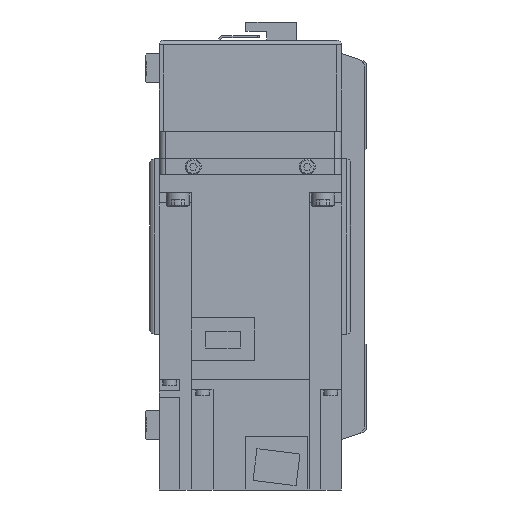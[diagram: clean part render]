
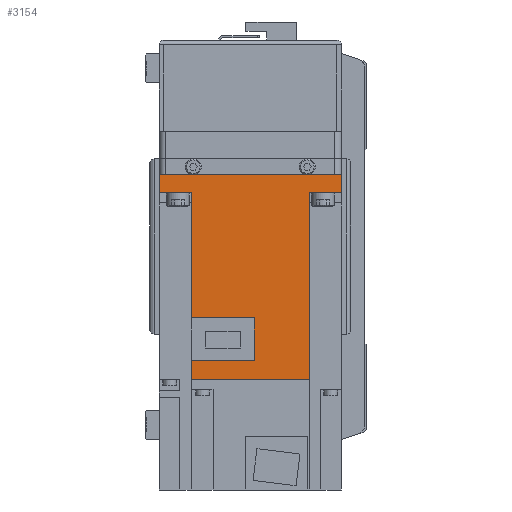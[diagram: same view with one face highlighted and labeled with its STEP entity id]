
A CAD part, left-side view. The second image highlights one B-rep face of the part: STEP entity #3154.
In plain terms, the highlighted planar face has unit normal (-1, 0, 0) as drawn and (1, 0, 0) by its records, which use the part's own axes.
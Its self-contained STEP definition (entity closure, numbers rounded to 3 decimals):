
#3154 = ADVANCED_FACE( '', ( #6561 ), #6562, .F. );
#6561 = FACE_OUTER_BOUND( '', #9993, .T. );
#6562 = PLANE( '', #9994 );
#9993 = EDGE_LOOP( '', ( #18867, #18868, #18869, #18870, #18871, #18872, #18873, #18874, #18875, #18876, #18877, #18878 ) );
#9994 = AXIS2_PLACEMENT_3D( '', #18879, #18880, #18881 );
#18867 = ORIENTED_EDGE( '', *, *, #20224, .F. );
#18868 = ORIENTED_EDGE( '', *, *, #20152, .F. );
#18869 = ORIENTED_EDGE( '', *, *, #22695, .F. );
#18870 = ORIENTED_EDGE( '', *, *, #20420, .T. );
#18871 = ORIENTED_EDGE( '', *, *, #21904, .F. );
#18872 = ORIENTED_EDGE( '', *, *, #20859, .T. );
#18873 = ORIENTED_EDGE( '', *, *, #22507, .T. );
#18874 = ORIENTED_EDGE( '', *, *, #21367, .F. );
#18875 = ORIENTED_EDGE( '', *, *, #20369, .F. );
#18876 = ORIENTED_EDGE( '', *, *, #20154, .F. );
#18877 = ORIENTED_EDGE( '', *, *, #22025, .F. );
#18878 = ORIENTED_EDGE( '', *, *, #22749, .F. );
#18879 = CARTESIAN_POINT( '', ( 40., 89.8, 40. ) );
#18880 = DIRECTION( '', ( -1., 0., 0. ) );
#18881 = DIRECTION( '', ( 0., 0., 1. ) );
#20152 = EDGE_CURVE( '', #24288, #24290, #24291, .T. );
#20154 = EDGE_CURVE( '', #24292, #24294, #24295, .T. );
#20224 = EDGE_CURVE( '', #24290, #24411, #24412, .T. );
#20369 = EDGE_CURVE( '', #24294, #24655, #24656, .T. );
#20420 = EDGE_CURVE( '', #24742, #24740, #24743, .T. );
#20859 = EDGE_CURVE( '', #25482, #25480, #25483, .T. );
#21367 = EDGE_CURVE( '', #24655, #26275, #26276, .T. );
#21904 = EDGE_CURVE( '', #25482, #24740, #27028, .T. );
#22025 = EDGE_CURVE( '', #27191, #24292, #27192, .T. );
#22507 = EDGE_CURVE( '', #25480, #26275, #27801, .T. );
#22695 = EDGE_CURVE( '', #24742, #24288, #28019, .T. );
#22749 = EDGE_CURVE( '', #24411, #27191, #28077, .T. );
#24288 = VERTEX_POINT( '', #30202 );
#24290 = VERTEX_POINT( '', #30205 );
#24291 = LINE( '', #30206, #30207 );
#24292 = VERTEX_POINT( '', #30208 );
#24294 = VERTEX_POINT( '', #30211 );
#24295 = LINE( '', #30212, #30213 );
#24411 = VERTEX_POINT( '', #30373 );
#24412 = LINE( '', #30374, #30375 );
#24655 = VERTEX_POINT( '', #30693 );
#24656 = LINE( '', #30694, #30695 );
#24740 = VERTEX_POINT( '', #30891 );
#24742 = VERTEX_POINT( '', #30894 );
#24743 = LINE( '', #30895, #30896 );
#25480 = VERTEX_POINT( '', #31935 );
#25482 = VERTEX_POINT( '', #31938 );
#25483 = LINE( '', #31939, #31940 );
#26275 = VERTEX_POINT( '', #33188 );
#26276 = LINE( '', #33189, #33190 );
#27028 = LINE( '', #34443, #34444 );
#27191 = VERTEX_POINT( '', #34686 );
#27192 = LINE( '', #34687, #34688 );
#27801 = LINE( '', #35645, #35646 );
#28019 = LINE( '', #35939, #35940 );
#28077 = LINE( '', #36029, #36030 );
#30202 = CARTESIAN_POINT( '', ( 40., 89.8, -25.95 ) );
#30205 = CARTESIAN_POINT( '', ( 40., 81.4, -25.95 ) );
#30206 = CARTESIAN_POINT( '', ( 40., 158., -25.95 ) );
#30207 = VECTOR( '', #37298, 1000. );
#30208 = CARTESIAN_POINT( '', ( 40., 62.8, -25.95 ) );
#30211 = CARTESIAN_POINT( '', ( 40., 8., -25.95 ) );
#30212 = CARTESIAN_POINT( '', ( 40., 158., -25.95 ) );
#30213 = VECTOR( '', #37300, 1000. );
#30373 = CARTESIAN_POINT( '', ( 40., 81.4, 1.8 ) );
#30374 = CARTESIAN_POINT( '', ( 40., 81.4, -26. ) );
#30375 = VECTOR( '', #37375, 1000. );
#30693 = CARTESIAN_POINT( '', ( 40., 8., -40. ) );
#30694 = CARTESIAN_POINT( '', ( 40., 8., 40. ) );
#30695 = VECTOR( '', #37572, 1000. );
#30891 = CARTESIAN_POINT( '', ( 40., 8., 25.95 ) );
#30894 = CARTESIAN_POINT( '', ( 40., 89.8, 25.95 ) );
#30895 = CARTESIAN_POINT( '', ( 40., 158., 25.95 ) );
#30896 = VECTOR( '', #37626, 1000. );
#31935 = CARTESIAN_POINT( '', ( 40., 0., 40. ) );
#31938 = CARTESIAN_POINT( '', ( 40., 8., 40. ) );
#31939 = CARTESIAN_POINT( '', ( 40., 89.8, 40. ) );
#31940 = VECTOR( '', #38230, 1000. );
#33188 = CARTESIAN_POINT( '', ( 40., 0., -40. ) );
#33189 = CARTESIAN_POINT( '', ( 40., 89.8, -40. ) );
#33190 = VECTOR( '', #38882, 1000. );
#34443 = CARTESIAN_POINT( '', ( 40., 8., 40. ) );
#34444 = VECTOR( '', #39505, 1000. );
#34686 = CARTESIAN_POINT( '', ( 40., 62.8, 1.8 ) );
#34687 = CARTESIAN_POINT( '', ( 40., 62.8, 1.8 ) );
#34688 = VECTOR( '', #39627, 1000. );
#35645 = CARTESIAN_POINT( '', ( 40., 0., 40. ) );
#35646 = VECTOR( '', #40137, 1000. );
#35939 = CARTESIAN_POINT( '', ( 40., 89.8, 40. ) );
#35940 = VECTOR( '', #40322, 1000. );
#36029 = CARTESIAN_POINT( '', ( 40., 81.4, 1.8 ) );
#36030 = VECTOR( '', #40350, 1000. );
#37298 = DIRECTION( '', ( 0., -1., 0. ) );
#37300 = DIRECTION( '', ( 0., -1., 0. ) );
#37375 = DIRECTION( '', ( 0., 0., 1. ) );
#37572 = DIRECTION( '', ( 0., 0., -1. ) );
#37626 = DIRECTION( '', ( 0., -1., 0. ) );
#38230 = DIRECTION( '', ( 0., -1., 0. ) );
#38882 = DIRECTION( '', ( 0., -1., 0. ) );
#39505 = DIRECTION( '', ( 0., 0., -1. ) );
#39627 = DIRECTION( '', ( 0., 0., -1. ) );
#40137 = DIRECTION( '', ( 0., 0., -1. ) );
#40322 = DIRECTION( '', ( 0., 0., -1. ) );
#40350 = DIRECTION( '', ( 0., -1., 0. ) );
